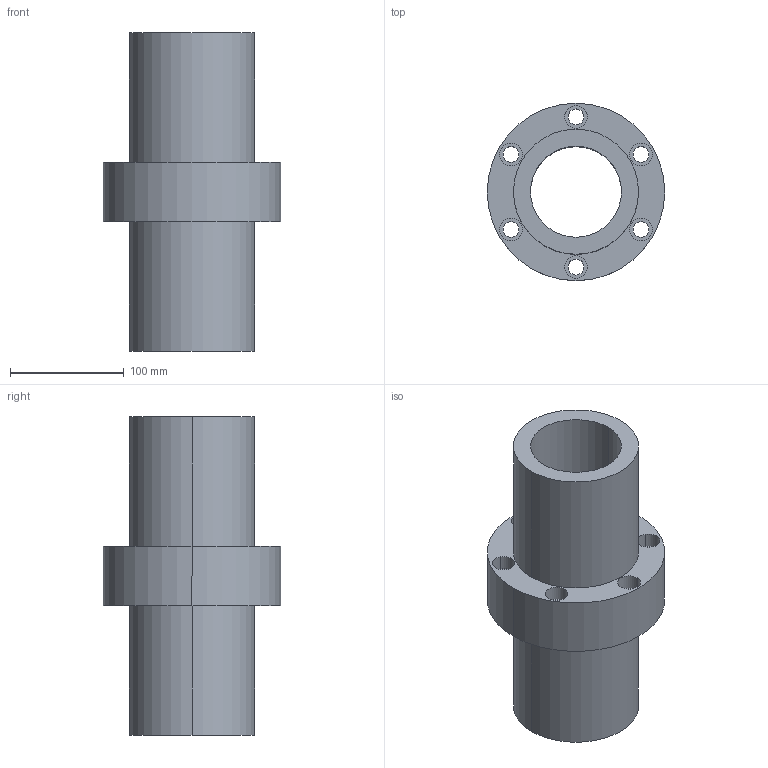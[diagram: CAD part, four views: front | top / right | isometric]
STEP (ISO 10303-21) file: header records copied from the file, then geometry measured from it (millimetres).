
FILE_DESCRIPTION((''),'2;1');
FILE_NAME('80-12T6','2008-04-07T',('yanyu'),(''),'PRO/ENGINEER BY PARAMETRIC TECHNOLOGY CORPORATION, 2005070','PRO/ENGINEER BY PARAMETRIC TECHNOLOGY CORPORATION, 2005070','');
FILE_SCHEMA(('CONFIG_CONTROL_DESIGN'));
Length unit declared in the file: millimetre
Products named in the file (1): 80-12T6
Bounding box: 156 x 156 x 280 mm (x, y, z)
Volume: 1692696.4 mm3; surface area: 216166.7 mm2
Topology: 1 solids, 1 shells, 42 faces, 104 edges, 72 vertices
Faces by surface type: cylinder 32, plane 10
Entity records: 1370 total; most frequent: DIRECTION 260, CARTESIAN_POINT 218, ORIENTED_EDGE 208, AXIS2_PLACEMENT_3D 114, EDGE_CURVE 104, VERTEX_POINT 72, CIRCLE 72, EDGE_LOOP 64
